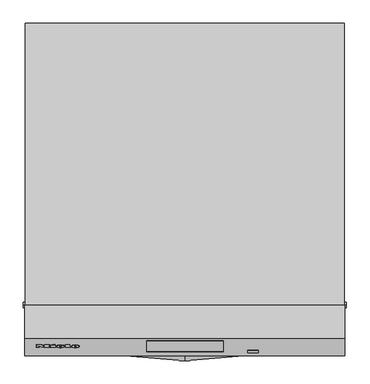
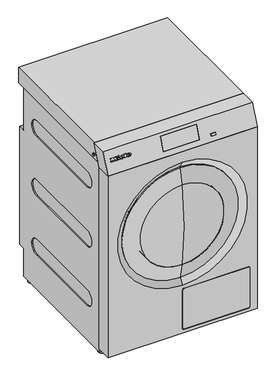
"""IFC4 building model written with IfcOpenShell, lengths in millimetres: proxy geometry, 11924420_EU_PDR910EL_IG : 52910002_EU_11924420_PDR910EL_IG."""

from ifc_helpers import new_model, si_unit, point, frame, frame_2d, origin, origin_with_axes, place, context, project, spatial, polyline, circle_curve, ellipse_curve, trimmed, segment, composite_curve, outline, extrude, faceted_brep, source, transform, mapped, element, save
from ifc_brep_helpers import plane_surface, cylinder_surface, revolved_surface, extruded_surface, advanced_brep


def specialty_equipment_8943c302(model_context):
    return source(origin(), model_context, "Body", "SolidModel", [
        advanced_brep(
        [(-238.2722, -700.6126019, 975.6957235), (-238.2722, -700.0401393, 977.1419447), (-227.9696, -700.0401393, 977.1419447), (-245.8952, -700.0401393, 977.1419447), (-241.6602, -701.9559051, 972.3021154), (-228.2314, -700.6126019, 975.6957235), (-232.8822, -700.6126019, 975.6957235), (-236.5474, -701.2474119, 974.0919931), (-238.2722, -699.3146422, 978.9747795), (-238.2722, -698.6968361, 980.5355529), (-235.6388, -698.6968361, 980.5355529), (-235.6388, -699.3146422, 978.9747795), (-238.2722, -699.6827953, 975.3276751), (-236.5474, -700.3176052, 973.7239446), (-232.8822, -699.6827953, 975.3276751), (-228.2314, -699.6827953, 975.3276751), (-241.6602, -701.0260985, 971.9340669), (-245.8952, -699.1103327, 976.7738963), (-227.9696, -699.1103327, 976.7738963), (-238.2722, -699.1103327, 976.7738963), (-238.2722, -698.3848356, 978.6067311), (-235.6388, -698.3848356, 978.6067311), (-235.6388, -697.7670295, 980.1675045), (-238.2722, -697.7670295, 980.1675045)],
        [
            (0, 1),
            (1, 2),
            (2, 3, ellipse_curve(frame((-236.9324, -700.0401393, 977.1419447), z_axis=(0.0, -0.9298066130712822, 0.36804845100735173), x_axis=(-1.0, 0.0, 0.0)), 8.9628, 7.4074)),
            (3, 4, circle_curve(frame((-239.935316, -699.8474292, 977.6287915), z_axis=(0.0, -0.9298066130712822, 0.36804845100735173), x_axis=(0.0, -0.36804845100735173, -0.9298066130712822)), 5.98284)),
            (4, 5, circle_curve(frame((-237.1118224, -698.3510914, 981.4090133), z_axis=(0.0, -0.9298066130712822, 0.36804845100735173), x_axis=(0.0, -0.36804845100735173, -0.9298066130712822)), 10.7989819)),
            (5, 6),
            (6, 7, circle_curve(frame((-235.7946118, -700.0854829, 977.0273926), z_axis=(0.0, 0.9298066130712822, -0.36804845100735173), x_axis=(0.0, -0.36804845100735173, -0.9298066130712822)), 3.2455106)),
            (7, 0, circle_curve(frame((-236.5474, -700.6126019, 975.6957235), z_axis=(0.0, 0.9298066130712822, -0.36804845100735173), x_axis=(0.0, -0.36804845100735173, -0.9298066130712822)), 1.7248)),
            (8, 9),
            (9, 10, circle_curve(frame((-236.9555, -698.6968361, 980.5355529), z_axis=(0.0, 0.9298066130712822, -0.36804845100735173), x_axis=(0.0, -0.36804845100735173, -0.9298066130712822)), 1.3167)),
            (10, 11),
            (11, 8),
            (12, 13, circle_curve(frame((-236.5474, -699.6827953, 975.3276751), z_axis=(0.0, -0.9298066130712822, 0.36804845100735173), x_axis=(0.0, -0.36804845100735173, -0.9298066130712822)), 1.7248)),
            (13, 14, circle_curve(frame((-235.7946118, -699.1556763, 976.6593441), z_axis=(0.0, -0.9298066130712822, 0.36804845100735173), x_axis=(0.0, -0.36804845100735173, -0.9298066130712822)), 3.2455106)),
            (14, 15),
            (15, 16, circle_curve(frame((-237.1118224, -697.4212848, 981.0409648), z_axis=(0.0, 0.9298066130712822, -0.36804845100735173), x_axis=(0.0, -0.36804845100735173, -0.9298066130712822)), 10.7989819)),
            (16, 17, circle_curve(frame((-239.935316, -698.9176225, 977.260743), z_axis=(0.0, 0.9298066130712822, -0.36804845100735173), x_axis=(0.0, -0.36804845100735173, -0.9298066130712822)), 5.98284)),
            (17, 18, ellipse_curve(frame((-236.9324, -699.1103327, 976.7738963), z_axis=(0.0, 0.9298066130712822, -0.36804845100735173), x_axis=(-1.0, 0.0, 0.0)), 8.9628, 7.4074)),
            (18, 19),
            (19, 12),
            (20, 21),
            (21, 22),
            (22, 23, circle_curve(frame((-236.9555, -697.7670295, 980.1675045), z_axis=(0.0, -0.9298066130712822, 0.36804845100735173), x_axis=(0.0, -0.36804845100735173, -0.9298066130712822)), 1.3167)),
            (23, 20),
            (0, 12),
            (19, 1),
            (18, 2),
            (5, 15),
            (14, 6),
            (17, 3),
            (13, 7),
            (16, 4),
            (8, 20),
            (23, 9),
            (22, 10),
            (21, 11),
        ],
        [
            plane_surface(frame((-238.2722, -700.0401393, 977.1419447), z_axis=(0.0, -0.9298066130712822, 0.36804845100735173), x_axis=(0.0, 0.36804845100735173, 0.9298066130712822))),
            plane_surface(frame((-238.2722, -699.1103327, 976.7738963), z_axis=(0.0, 0.9298066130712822, -0.36804845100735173), x_axis=(0.0, -0.36804845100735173, -0.9298066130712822))),
            plane_surface(frame((-238.2722, -700.6126019, 975.6957235), z_axis=(1.0, 0.0, 0.0), x_axis=(0.0, 0.9298066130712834, -0.3680484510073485))),
            plane_surface(frame((-238.2722, -700.0401393, 977.1419447), z_axis=(0.0, -0.3680484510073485, -0.9298066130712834), x_axis=(0.0, 0.9298066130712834, -0.3680484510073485))),
            plane_surface(frame((-228.2314, -700.6126019, 975.6957235), z_axis=(0.0, 0.3680484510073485, 0.9298066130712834), x_axis=(0.0, 0.9298066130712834, -0.3680484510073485))),
            extruded_surface(trimmed(ellipse_curve(frame((-236.9324, -698.1805261, 976.4058478), z_axis=(0.0, -0.9298066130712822, 0.36804845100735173), x_axis=(-1.0, 0.0, 0.0)), 8.9628, 7.4074), [point((-227.9696, -698.1805261, 976.4058478))], [point((-245.8952, -698.1805261, 976.4058478))], True, "CARTESIAN"), (0.0, -0.9298066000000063, 0.3680485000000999), 1.0000000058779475),
            revolved_surface(polyline([(-235.7946118, -700.3501813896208, 973.6416468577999), (-235.7946118, -701.2799880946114, 974.009695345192)]), (-235.7946118, -699.1556763, 976.6593441), (0.0, 0.9298066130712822, -0.36804845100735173)),
            revolved_surface(polyline([(-236.5474, -700.3176051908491, 973.723944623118), (-236.5474, -701.2474118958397, 974.0919931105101)]), (-236.5474, -699.6827953, 975.3276751), (0.0, 0.9298066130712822, -0.36804845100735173)),
            cylinder_surface(frame((-239.935316, -698.9176225, 977.260743), z_axis=(0.0, -0.9298066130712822, 0.36804845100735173), x_axis=(0.0, -0.36804845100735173, -0.9298066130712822)), 5.98284),
            cylinder_surface(frame((-237.1118224, -697.4212848, 981.0409648), z_axis=(0.0, -0.9298066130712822, 0.36804845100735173), x_axis=(0.0, -0.36804845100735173, -0.9298066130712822)), 10.7989819),
            plane_surface(frame((-238.2722, -699.3146422, 978.9747795), z_axis=(1.0, 0.0, 0.0), x_axis=(0.0, 0.9298066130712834, -0.3680484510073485))),
            revolved_surface(polyline([(-236.9555, -698.2516388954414, 978.943228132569), (-236.9555, -699.1814454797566, 979.3112765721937)]), (-236.9555, -697.7670295, 980.1675045), (0.0, 0.9298066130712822, -0.36804845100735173)),
            plane_surface(frame((-235.6388, -698.6968361, 980.5355529), z_axis=(-1.0, 0.0, 0.0), x_axis=(0.0, 0.9298066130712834, -0.3680484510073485))),
            plane_surface(frame((-235.6388, -699.3146422, 978.9747795), z_axis=(0.0, 0.3680484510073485, 0.9298066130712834), x_axis=(0.0, 0.9298066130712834, -0.3680484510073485))),
        ],
        [
            (0, [[1, 2, 3, 4, 5, 6, 7, 8], [9, 10, 11, 12]]),
            (1, [[13, 14, 15, 16, 17, 18, 19, 20], [21, 22, 23, 24]]),
            (2, [[-1, 25, -20, 26]]),
            (3, [[-2, -26, -19, 27]]),
            (4, [[-6, 28, -15, 29]]),
            (5, [[-3, -27, -18, 30]]),
            (6, [[-7, -29, -14, 31]]),
            (7, [[-8, -31, -13, -25]]),
            (8, [[-4, -30, -17, 32]]),
            (9, [[-5, -32, -16, -28]]),
            (10, [[-9, 33, -24, 34]]),
            (11, [[-10, -34, -23, 35]]),
            (12, [[-11, -35, -22, 36]]),
            (13, [[-12, -36, -21, -33]]),
        ],
    ),
        advanced_brep(
        [(-270.412, -700.6126019, 975.6957235), (-270.412, -700.0401393, 977.1419447), (-260.1094, -700.0401393, 977.1419447), (-278.035, -700.0401393, 977.1419447), (-273.8, -701.9559051, 972.3021154), (-260.3712, -700.6126019, 975.6957235), (-265.022, -700.6126019, 975.6957235), (-268.6872, -701.2474119, 974.0919931), (-270.412, -699.3146422, 978.9747795), (-270.412, -698.6968361, 980.5355529), (-267.7786, -698.6968361, 980.5355529), (-267.7786, -699.3146422, 978.9747795), (-270.412, -699.6827953, 975.3276751), (-268.6872, -700.3176052, 973.7239446), (-265.022, -699.6827953, 975.3276751), (-260.3712, -699.6827953, 975.3276751), (-273.8, -701.0260985, 971.9340669), (-278.035, -699.1103327, 976.7738963), (-260.1094, -699.1103327, 976.7738963), (-270.412, -699.1103327, 976.7738963), (-270.412, -698.3848356, 978.6067311), (-267.7786, -698.3848356, 978.6067311), (-267.7786, -697.7670295, 980.1675045), (-270.412, -697.7670295, 980.1675045)],
        [
            (0, 1),
            (1, 2),
            (2, 3, ellipse_curve(frame((-269.0722, -700.0401393, 977.1419447), z_axis=(0.0, -0.9298066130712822, 0.36804845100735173), x_axis=(-1.0, 0.0, 0.0)), 8.9628, 7.4074)),
            (3, 4, circle_curve(frame((-272.075116, -699.8474292, 977.6287915), z_axis=(0.0, -0.9298066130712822, 0.36804845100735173), x_axis=(0.0, -0.36804845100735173, -0.9298066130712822)), 5.98284)),
            (4, 5, circle_curve(frame((-269.2516224, -698.3510914, 981.4090133), z_axis=(0.0, -0.9298066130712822, 0.36804845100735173), x_axis=(0.0, -0.36804845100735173, -0.9298066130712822)), 10.7989819)),
            (5, 6),
            (6, 7, circle_curve(frame((-267.9344118, -700.0854829, 977.0273926), z_axis=(0.0, 0.9298066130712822, -0.36804845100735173), x_axis=(0.0, -0.36804845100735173, -0.9298066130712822)), 3.2455106)),
            (7, 0, circle_curve(frame((-268.6872, -700.6126019, 975.6957235), z_axis=(0.0, 0.9298066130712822, -0.36804845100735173), x_axis=(0.0, -0.36804845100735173, -0.9298066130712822)), 1.7248)),
            (8, 9),
            (9, 10, circle_curve(frame((-269.0953, -698.6968361, 980.5355529), z_axis=(0.0, 0.9298066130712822, -0.36804845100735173), x_axis=(0.0, -0.36804845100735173, -0.9298066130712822)), 1.3167)),
            (10, 11),
            (11, 8),
            (12, 13, circle_curve(frame((-268.6872, -699.6827953, 975.3276751), z_axis=(0.0, -0.9298066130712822, 0.36804845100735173), x_axis=(0.0, -0.36804845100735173, -0.9298066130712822)), 1.7248)),
            (13, 14, circle_curve(frame((-267.9344118, -699.1556763, 976.6593441), z_axis=(0.0, -0.9298066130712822, 0.36804845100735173), x_axis=(0.0, -0.36804845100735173, -0.9298066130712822)), 3.2455106)),
            (14, 15),
            (15, 16, circle_curve(frame((-269.2516224, -697.4212848, 981.0409648), z_axis=(0.0, 0.9298066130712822, -0.36804845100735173), x_axis=(0.0, -0.36804845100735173, -0.9298066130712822)), 10.7989819)),
            (16, 17, circle_curve(frame((-272.075116, -698.9176225, 977.260743), z_axis=(0.0, 0.9298066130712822, -0.36804845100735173), x_axis=(0.0, -0.36804845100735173, -0.9298066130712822)), 5.98284)),
            (17, 18, ellipse_curve(frame((-269.0722, -699.1103327, 976.7738963), z_axis=(0.0, 0.9298066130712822, -0.36804845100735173), x_axis=(-1.0, 0.0, 0.0)), 8.9628, 7.4074)),
            (18, 19),
            (19, 12),
            (20, 21),
            (21, 22),
            (22, 23, circle_curve(frame((-269.0953, -697.7670295, 980.1675045), z_axis=(0.0, -0.9298066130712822, 0.36804845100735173), x_axis=(0.0, -0.36804845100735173, -0.9298066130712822)), 1.3167)),
            (23, 20),
            (0, 12),
            (19, 1),
            (18, 2),
            (5, 15),
            (14, 6),
            (17, 3),
            (13, 7),
            (16, 4),
            (8, 20),
            (23, 9),
            (22, 10),
            (21, 11),
        ],
        [
            plane_surface(frame((-270.412, -700.0401393, 977.1419447), z_axis=(0.0, -0.9298066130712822, 0.36804845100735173), x_axis=(0.0, 0.36804845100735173, 0.9298066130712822))),
            plane_surface(frame((-270.412, -699.1103327, 976.7738963), z_axis=(0.0, 0.9298066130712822, -0.36804845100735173), x_axis=(0.0, -0.36804845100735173, -0.9298066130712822))),
            plane_surface(frame((-270.412, -700.6126019, 975.6957235), z_axis=(1.0, 0.0, 0.0), x_axis=(0.0, 0.9298066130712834, -0.3680484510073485))),
            plane_surface(frame((-270.412, -700.0401393, 977.1419447), z_axis=(0.0, -0.3680484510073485, -0.9298066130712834), x_axis=(0.0, 0.9298066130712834, -0.3680484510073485))),
            plane_surface(frame((-260.3712, -700.6126019, 975.6957235), z_axis=(0.0, 0.3680484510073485, 0.9298066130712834), x_axis=(0.0, 0.9298066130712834, -0.3680484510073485))),
            extruded_surface(trimmed(ellipse_curve(frame((-269.0722, -698.1805261, 976.4058478), z_axis=(0.0, -0.9298066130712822, 0.36804845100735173), x_axis=(-1.0, 0.0, 0.0)), 8.9628, 7.4074), [point((-260.1094, -698.1805261, 976.4058478))], [point((-278.035, -698.1805261, 976.4058478))], True, "CARTESIAN"), (0.0, -0.9298066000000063, 0.3680485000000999), 1.0000000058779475),
            revolved_surface(polyline([(-267.9344118, -700.3501813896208, 973.6416468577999), (-267.9344118, -701.2799880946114, 974.009695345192)]), (-267.9344118, -699.1556763, 976.6593441), (0.0, 0.9298066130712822, -0.36804845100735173)),
            revolved_surface(polyline([(-268.6872, -700.3176051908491, 973.723944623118), (-268.6872, -701.2474118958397, 974.0919931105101)]), (-268.6872, -699.6827953, 975.3276751), (0.0, 0.9298066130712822, -0.36804845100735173)),
            cylinder_surface(frame((-272.075116, -698.9176225, 977.260743), z_axis=(0.0, -0.9298066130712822, 0.36804845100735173), x_axis=(0.0, -0.36804845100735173, -0.9298066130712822)), 5.98284),
            cylinder_surface(frame((-269.2516224, -697.4212848, 981.0409648), z_axis=(0.0, -0.9298066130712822, 0.36804845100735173), x_axis=(0.0, -0.36804845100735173, -0.9298066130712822)), 10.7989819),
            plane_surface(frame((-270.412, -699.3146422, 978.9747795), z_axis=(1.0, 0.0, 0.0), x_axis=(0.0, 0.9298066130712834, -0.3680484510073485))),
            revolved_surface(polyline([(-269.0953, -698.2516388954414, 978.943228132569), (-269.0953, -699.1814454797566, 979.3112765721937)]), (-269.0953, -697.7670295, 980.1675045), (0.0, 0.9298066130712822, -0.36804845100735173)),
            plane_surface(frame((-267.7786, -698.6968361, 980.5355529), z_axis=(-1.0, 0.0, 0.0), x_axis=(0.0, 0.9298066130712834, -0.3680484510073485))),
            plane_surface(frame((-267.7786, -699.3146422, 978.9747795), z_axis=(0.0, 0.3680484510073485, 0.9298066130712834), x_axis=(0.0, 0.9298066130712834, -0.3680484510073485))),
        ],
        [
            (0, [[1, 2, 3, 4, 5, 6, 7, 8], [9, 10, 11, 12]]),
            (1, [[13, 14, 15, 16, 17, 18, 19, 20], [21, 22, 23, 24]]),
            (2, [[-1, 25, -20, 26]]),
            (3, [[-2, -26, -19, 27]]),
            (4, [[-6, 28, -15, 29]]),
            (5, [[-3, -27, -18, 30]]),
            (6, [[-7, -29, -14, 31]]),
            (7, [[-8, -31, -13, -25]]),
            (8, [[-4, -30, -17, 32]]),
            (9, [[-5, -32, -16, -28]]),
            (10, [[-9, 33, -24, 34]]),
            (11, [[-10, -34, -23, 35]]),
            (12, [[-11, -35, -22, 36]]),
            (13, [[-12, -36, -21, -33]]),
        ],
    ),
        extrude(outline(polyline([(0.0, 0.0), (-0.0209991, -5.7737091), (-2.7701549, -5.7597671), (-2.7556966, 0.0), (0.0, 0.0)])), frame((-287.2442, -695.6925612, 985.4082665), z_axis=(0.0, -0.9298066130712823, 0.3680484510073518), x_axis=(-0.4247202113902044, 0.33320333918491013, 0.8417768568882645)), (0.0, 0.0, 1.0), 1.0),
        extrude(outline(polyline([(-0.9497773, 4.6471612), (-5.3516625, -4.7358047), (-13.5635003, -0.8833376), (-14.3222205, -2.5006095), (-16.6644765, -1.4017734), (-11.5038711, 9.5984644), (-9.1616151, 8.4996283), (-9.9399574, 6.8405303), (-4.2237375, 4.1588469), (-3.4453952, 5.8179449), (-0.9497773, 4.6471612)])), frame((-287.2442, -695.6925612, 985.4082665), z_axis=(0.0, -0.9298066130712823, 0.3680484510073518), x_axis=(-0.4247202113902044, 0.33320333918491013, 0.8417768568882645)), (0.0, 0.0, 1.0), 1.0),
        extrude(outline(polyline([(0.0, 0.0), (0.0, -2.5102), (-10.5952, -2.5102), (-10.5952, 10.3026), (-12.4894, 10.3026), (-12.4894, 12.8898), (0.0, 12.8898), (0.0, 10.3026), (-1.848, 10.3026), (-1.848, 0.0), (0.0, 0.0)])), frame((-259.247, -696.2820276, 983.9190882), z_axis=(0.0, -0.9298066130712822, 0.36804845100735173), x_axis=(-1.0, 0.0, 0.0)), (0.0, 0.0, 1.0), 1.0),
        extrude(outline(polyline([(0.0, 0.0), (0.0, -2.5102), (-10.7338, -2.5102), (-15.246, 3.2648), (-19.7428, -2.5102), (-29.1214, -2.5102), (-29.1214, 0.0), (-27.1656, 0.0), (-27.1656, 10.3026), (-29.1214, 10.3026), (-29.1214, 12.8898), (-16.8322, 12.8898), (-16.8322, 10.3026), (-18.7264, 10.3026), (-18.7264, 3.7307777), (-11.8118, 12.8898), (-4.928, 3.7988752), (-4.928, 10.3026), (-6.776, 10.3026), (-6.776, 12.8898), (0.0, 12.8898), (0.0, 10.3026), (-1.8634, 10.3026), (-1.8634, 0.0), (0.0, 0.0)])), frame((-321.7402, -696.2820276, 983.9190882), z_axis=(0.0, -0.9298066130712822, 0.36804845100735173), x_axis=(-1.0, 0.0, 0.0)), (0.0, 0.0, 1.0), 1.0),
        extrude(outline(polyline([(-639.7145833, 946.7), (-711.0145833, 946.7), (-687.0666667, 1007.2), (-615.7666667, 1007.2), (-639.7145833, 946.7)])), frame((-82.85, 0.0, 0.0), z_axis=(1.0, 0.0, 0.0), x_axis=(0.0, 1.0, 0.0)), (0.0, 0.0, 1.0), 165.7),
        faceted_brep([(346.0, -610.7, 1020.0), (346.0, -682.0, 1020.0), (346.0, -720.0, 924.0), (346.0, -648.7, 924.0), (-346.0, -610.7, 1020.0), (-346.0, -648.7, 924.0), (-346.0, -720.0, 924.0), (-346.0, -682.0, 1020.0), (-82.85, -687.0666667, 1007.2), (82.85, -687.0666667, 1007.2), (82.85, -711.0145833, 946.7), (-82.85, -711.0145833, 946.7), (82.85, -615.7666667, 1007.2), (-82.85, -615.7666667, 1007.2), (-82.85, -639.7145833, 946.7), (82.85, -639.7145833, 946.7)], [[[0, 1, 2, 3]], [[4, 5, 6, 7]], [[1, 0, 4, 7]], [[2, 1, 7, 6], [8, 9, 10, 11]], [[3, 2, 6, 5]], [[0, 3, 5, 4], [12, 13, 14, 15]], [[12, 9, 8, 13]], [[13, 8, 11, 14]], [[14, 11, 10, 15]], [[9, 12, 15, 10]]]),
        extrude(outline(polyline([(-707.5708333, 955.4), (-711.1333333, 946.4), (-713.1333333, 946.4), (-709.5708333, 955.4), (-707.5708333, 955.4)])), frame((136.75, 0.0, 0.0), z_axis=(1.0, 0.0, 0.0), x_axis=(0.0, 1.0, 0.0)), (0.0, 0.0, 1.0), 22.5),
        extrude(outline(polyline([(0.0, 943.8), (-640.9, 943.8), (-610.7, 1020.0), (0.0, 1020.0), (0.0, 943.8)])), frame((-345.0, 0.0, 0.0), z_axis=(1.0, 0.0, 0.0), x_axis=(0.0, 1.0, 0.0)), (0.0, 0.0, 1.0), 690.0),
        extrude(outline(composite_curve([segment(trimmed(circle_curve(frame_2d((-610.0, 963.8)), 6.0), [point((-610.0, 957.8))], [point((-610.0, 969.8))], False, "CARTESIAN"), True, "CONTINUOUS"), segment(trimmed(circle_curve(frame_2d((-610.0, 963.8)), 6.0), [point((-610.0, 969.8))], [point((-610.0, 957.8))], False, "CARTESIAN"), True, "CONTINUOUS")], self_intersect=False)), frame((-350.0, 0.0, 0.0), z_axis=(1.0, 0.0, 0.0), x_axis=(0.0, 1.0, 0.0)), (0.0, 0.0, 1.0), 5.0),
        extrude(outline(composite_curve([segment(trimmed(circle_curve(frame_2d((-610.0, 963.8)), 6.0), [point((-610.0, 957.8))], [point((-610.0, 969.8))], False, "CARTESIAN"), True, "CONTINUOUS"), segment(trimmed(circle_curve(frame_2d((-610.0, 963.8)), 6.0), [point((-610.0, 969.8))], [point((-610.0, 957.8))], False, "CARTESIAN"), True, "CONTINUOUS")], self_intersect=False)), frame((345.0, 0.0, 0.0), z_axis=(1.0, 0.0, 0.0), x_axis=(0.0, 1.0, 0.0)), (0.0, 0.0, 1.0), 5.0),
        advanced_brep(
        [(-0.6181593, -731.0, 562.28215), (-0.6181593, -714.5357304, 758.08215), (-0.6181593, -714.5357304, 366.48215), (-0.6181593, -655.0, 366.48215), (-0.6181593, -655.0, 758.08215), (-0.6181593, -655.0, 562.28215)],
        [
            (0, 1, circle_curve(frame((-0.6181593, 441.5, 562.28215), z_axis=(-1.0, 0.0, 0.0), x_axis=(0.0, 1.0, 0.0)), 1172.5)),
            (1, 2, circle_curve(frame((-0.6181593, -714.5357304, 562.28215), z_axis=(0.0, -1.0, 0.0), x_axis=(0.0, 0.0, 1.0)), 195.8)),
            (2, 0, circle_curve(frame((-0.6181593, 441.5, 562.28215), z_axis=(-1.0, 0.0, 0.0), x_axis=(0.0, 1.0, 0.0)), 1172.5)),
            (2, 1, circle_curve(frame((-0.6181593, -714.5357304, 562.28215), z_axis=(0.0, -1.0, 0.0), x_axis=(0.0, 0.0, 1.0)), 195.8)),
            (3, 4, circle_curve(frame((-0.6181593, -655.0, 562.28215), z_axis=(0.0, 1.0, 0.0), x_axis=(0.0, 0.0, 1.0)), 195.8)),
            (4, 5),
            (5, 3),
            (4, 3, circle_curve(frame((-0.6181593, -655.0, 562.28215), z_axis=(0.0, 1.0, 0.0), x_axis=(0.0, 0.0, 1.0)), 195.8)),
            (1, 4),
            (3, 2),
        ],
        [
            revolved_surface(trimmed(ellipse_curve(frame((-0.6181593, 441.5, 562.28215), z_axis=(1.0, 0.0, 0.0), x_axis=(0.0, 1.0, 0.0)), 1172.5, 1172.5), [point((-0.6181593, -714.5357304, 758.08215))], [point((-0.6181593, -731.0, 562.28215))], True, "CARTESIAN"), (-0.6181593, -1133.7365177, 562.28215), (0.0, -1.0, 0.0)),
            plane_surface(frame((-0.6181593, -655.0, 562.28215), z_axis=(0.0, 1.0, 0.0), x_axis=(0.0, 0.0, 1.0))),
            cylinder_surface(frame((-0.6181593, -1133.7365177, 562.28215), z_axis=(0.0, -1.0, 0.0), x_axis=(0.0, 0.0, 1.0)), 195.8),
        ],
        [
            (0, [[1, 2, 3]]),
            (0, [[-3, 4, -1]]),
            (1, [[5, 6, 7]]),
            (1, [[8, -7, -6]]),
            (2, [[-2, 9, -5, 10]]),
            (2, [[-4, -10, -8, -9]]),
        ],
    ),
        advanced_brep(
        [(-0.6181593, -655.0, 327.28215), (-0.6181593, -655.0, 797.28215), (-0.6181593, -655.0, 758.08215), (-0.6181593, -655.0, 366.48215), (-0.6181593, -661.5, 315.18215), (-0.6181593, -661.5, 809.38215), (-0.6181593, -690.7, 292.28215), (-0.6181593, -690.7, 832.28215), (-0.6181593, -700.5, 292.28215), (-0.6181593, -700.5, 832.28215), (-0.6181593, -717.25, 366.48215), (-0.6181593, -717.25, 758.08215)],
        [
            (0, 1, circle_curve(frame((-0.6181593, -655.0, 562.28215), z_axis=(0.0, 1.0, 0.0), x_axis=(0.0, 0.0, 1.0)), 235.0)),
            (1, 2),
            (2, 3, circle_curve(frame((-0.6181593, -655.0, 562.28215), z_axis=(0.0, -1.0, 0.0), x_axis=(0.0, 0.0, 1.0)), 195.8)),
            (3, 0),
            (1, 0, circle_curve(frame((-0.6181593, -655.0, 562.28215), z_axis=(0.0, 1.0, 0.0), x_axis=(0.0, 0.0, 1.0)), 235.0)),
            (3, 2, circle_curve(frame((-0.6181593, -655.0, 562.28215), z_axis=(0.0, -1.0, 0.0), x_axis=(0.0, 0.0, 1.0)), 195.8)),
            (4, 5, circle_curve(frame((-0.6181593, -661.5, 562.28215), z_axis=(0.0, 1.0, 0.0), x_axis=(0.0, 0.0, 1.0)), 247.1)),
            (5, 1),
            (0, 4),
            (5, 4, circle_curve(frame((-0.6181593, -661.5, 562.28215), z_axis=(0.0, 1.0, 0.0), x_axis=(0.0, 0.0, 1.0)), 247.1)),
            (6, 7, circle_curve(frame((-0.6181593, -690.7, 562.28215), z_axis=(0.0, 1.0, 0.0), x_axis=(0.0, 0.0, 1.0)), 270.0)),
            (7, 5),
            (4, 6),
            (7, 6, circle_curve(frame((-0.6181593, -690.7, 562.28215), z_axis=(0.0, 1.0, 0.0), x_axis=(0.0, 0.0, 1.0)), 270.0)),
            (8, 9, circle_curve(frame((-0.6181593, -700.5, 562.28215), z_axis=(0.0, 1.0, 0.0), x_axis=(0.0, 0.0, 1.0)), 270.0)),
            (9, 7),
            (6, 8),
            (9, 8, circle_curve(frame((-0.6181593, -700.5, 562.28215), z_axis=(0.0, 1.0, 0.0), x_axis=(0.0, 0.0, 1.0)), 270.0)),
            (10, 11, circle_curve(frame((-0.6181593, -717.25, 562.28215), z_axis=(0.0, 1.0, 0.0), x_axis=(0.0, 0.0, 1.0)), 195.8)),
            (11, 9),
            (8, 10),
            (11, 10, circle_curve(frame((-0.6181593, -717.25, 562.28215), z_axis=(0.0, 1.0, 0.0), x_axis=(0.0, 0.0, 1.0)), 195.8)),
            (2, 11),
            (10, 3),
        ],
        [
            plane_surface(frame((-0.6181593, -655.0, 562.28215), z_axis=(0.0, 1.0, 0.0), x_axis=(0.0, 0.0, 1.0))),
            revolved_surface(polyline([(-0.6181593, -655.0, 797.28215), (-0.6181593, -661.5, 809.38215)]), (-0.6181593, -1133.7365177, 562.28215), (0.0, -1.0, 0.0)),
            revolved_surface(polyline([(-0.6181593, -661.5, 809.38215), (-0.6181593, -690.7, 832.28215)]), (-0.6181593, -1133.7365177, 562.28215), (0.0, -1.0, 0.0)),
            cylinder_surface(frame((-0.6181593, -1133.7365177, 562.28215), z_axis=(0.0, -1.0, 0.0), x_axis=(0.0, 0.0, 1.0)), 270.0),
            revolved_surface(polyline([(-0.6181593, -700.5, 832.28215), (-0.6181593, -717.25, 758.08215)]), (-0.6181593, -1133.7365177, 562.28215), (0.0, -1.0, 0.0)),
            revolved_surface(polyline([(-0.6181593, -717.25, 758.08215), (-0.6181593, -655.0, 758.08215)]), (-0.6181593, -1133.7365177, 562.28215), (0.0, -1.0, 0.0)),
        ],
        [
            (0, [[1, 2, 3, 4]]),
            (0, [[5, -4, 6, -2]]),
            (1, [[7, 8, -1, 9]]),
            (1, [[10, -9, -5, -8]]),
            (2, [[11, 12, -7, 13]]),
            (2, [[14, -13, -10, -12]]),
            (3, [[15, 16, -11, 17]]),
            (3, [[18, -17, -14, -16]]),
            (4, [[19, 20, -15, 21]]),
            (4, [[22, -21, -18, -20]]),
            (5, [[-3, 23, -19, 24]]),
            (5, [[-6, -24, -22, -23]]),
        ],
    ),
        extrude(outline(polyline([(240.6772603, -32.7), (233.3, -32.7), (233.3, -31.4442961), (239.4215564, -31.4442961), (239.4215564, -28.1480734), (233.770889, -28.1480734), (233.770889, -26.8923696), (239.4215564, -26.8923696), (239.4215564, -23.9100729), (233.456963, -23.9100729), (233.456963, -22.654369), (240.6772603, -22.654369), (240.6772603, -32.7)])), frame((0.0, 0.0, 779.0), z_axis=(0.0, 0.0, 1.0), x_axis=(1.0, 0.0, 0.0)), (0.0, 0.0, 1.0), 1.0),
        extrude(outline(polyline([(231.4164442, -32.7), (225.1379248, -32.7), (225.1379248, -31.4442961), (230.1607403, -31.4442961), (230.1607403, -22.654369), (231.4164442, -22.654369), (231.4164442, -32.7)])), frame((0.0, 0.0, 779.0), z_axis=(0.0, 0.0, 1.0), x_axis=(1.0, 0.0, 0.0)), (0.0, 0.0, 1.0), 1.0),
        extrude(outline(composite_curve([segment(trimmed(circle_curve(frame_2d((233.3, -27.7)), 7.5), [point((225.8, -27.7))], [point((240.8, -27.7))], False, "CARTESIAN"), True, "CONTINUOUS"), segment(trimmed(circle_curve(frame_2d((233.3, -27.7)), 7.5), [point((240.8, -27.7))], [point((225.8, -27.7))], False, "CARTESIAN"), True, "CONTINUOUS")], self_intersect=False)), frame((0.0, 0.0, 780.0), z_axis=(0.0, 0.0, 1.0), x_axis=(1.0, 0.0, 0.0)), (0.0, 0.0, 1.0), 30.0),
        extrude(outline(polyline([(-36.0, 810.0), (-36.0, 890.8), (-11.2, 863.0), (-11.2, 810.0), (-36.0, 810.0)])), frame((197.0, 0.0, 0.0), z_axis=(1.0, 0.0, 0.0), x_axis=(0.0, 1.0, 0.0)), (0.0, 0.0, 1.0), 76.0),
        extrude(outline(polyline([(85.0, -189.952875), (95.045631, -193.9627887), (95.045631, -195.0320991), (85.0, -199.0420128), (85.0, -197.7151851), (88.1392597, -196.5649407), (88.1392597, -192.4274945), (85.0, -191.2797027), (85.0, -189.952875)]), holes=[polyline([(89.3949636, -192.8885733), (89.3949636, -196.1063145), (91.864678, -195.2013248), (93.7899271, -194.4974439), (92.0805021, -193.8720445), (89.3949636, -192.8885733)])]), frame((0.0, -6.0, 0.0), z_axis=(0.0, 1.0, 0.0), x_axis=(0.0, 0.0, 1.0)), (0.0, 0.0, 1.0), 1.0),
        extrude(outline(polyline([(85.0, -200.3835558), (95.045631, -200.3835558), (95.045631, -201.6392597), (86.2557039, -201.6392597), (86.2557039, -206.6620752), (85.0, -206.6620752), (85.0, -200.3835558)])), frame((0.0, -6.0, 0.0), z_axis=(0.0, 1.0, 0.0), x_axis=(0.0, 0.0, 1.0)), (0.0, 0.0, 1.0), 1.0),
        extrude(outline(composite_curve([segment(trimmed(circle_curve(frame_2d((90.0, -198.5)), 57.5), [point((32.5, -198.5))], [point((147.5, -198.5))], False, "CARTESIAN"), True, "CONTINUOUS"), segment(trimmed(circle_curve(frame_2d((90.0, -198.5)), 57.5), [point((147.5, -198.5))], [point((32.5, -198.5))], False, "CARTESIAN"), True, "CONTINUOUS")], self_intersect=False)), frame((0.0, -36.0, 0.0), z_axis=(0.0, 1.0, 0.0), x_axis=(0.0, 0.0, 1.0)), (0.0, 0.0, 1.0), 30.0),
        extrude(outline(composite_curve([segment(trimmed(circle_curve(frame_2d((-314.5, -60.1)), 20.0), [point((-334.5, -60.1))], [point((-294.5, -60.1))], False, "CARTESIAN"), True, "CONTINUOUS"), segment(trimmed(circle_curve(frame_2d((-314.5, -60.1)), 20.0), [point((-294.5, -60.1))], [point((-334.5, -60.1))], False, "CARTESIAN"), True, "CONTINUOUS")], self_intersect=False)), origin_with_axes(), (0.0, 0.0, 1.0), 18.2),
        extrude(outline(composite_curve([segment(trimmed(circle_curve(frame_2d((314.5, -60.1)), 20.0), [point((294.5, -60.1))], [point((334.5, -60.1))], False, "CARTESIAN"), True, "CONTINUOUS"), segment(trimmed(circle_curve(frame_2d((314.5, -60.1)), 20.0), [point((334.5, -60.1))], [point((294.5, -60.1))], False, "CARTESIAN"), True, "CONTINUOUS")], self_intersect=False)), origin_with_axes(), (0.0, 0.0, 1.0), 18.2),
        extrude(outline(composite_curve([segment(trimmed(circle_curve(frame_2d((314.5, -621.3)), 20.0), [point((294.5, -621.3))], [point((334.5, -621.3))], False, "CARTESIAN"), True, "CONTINUOUS"), segment(trimmed(circle_curve(frame_2d((314.5, -621.3)), 20.0), [point((334.5, -621.3))], [point((294.5, -621.3))], False, "CARTESIAN"), True, "CONTINUOUS")], self_intersect=False)), origin_with_axes(), (0.0, 0.0, 1.0), 18.2),
        extrude(outline(composite_curve([segment(trimmed(circle_curve(frame_2d((-314.5, -621.3)), 20.0), [point((-334.5, -621.3))], [point((-294.5, -621.3))], False, "CARTESIAN"), True, "CONTINUOUS"), segment(trimmed(circle_curve(frame_2d((-314.5, -621.3)), 20.0), [point((-294.5, -621.3))], [point((-334.5, -621.3))], False, "CARTESIAN"), True, "CONTINUOUS")], self_intersect=False)), origin_with_axes(), (0.0, 0.0, 1.0), 18.2),
        advanced_brep(
        [(-342.5, -648.7, 18.2), (342.5, -648.7, 18.2), (342.5, -648.7, 924.0), (-342.5, -648.7, 924.0), (0.0, -648.7, 299.8), (0.0, -648.7, 839.8), (342.5, -5.0, 733.5), (342.5, -5.0, 433.0), (149.5, -5.0, 433.0), (-80.0, -5.0, 155.0), (-342.5, -5.0, 155.0), (-342.5, -5.0, 733.5), (-151.0, -5.0, 733.5), (-151.0, -5.0, 943.8), (149.5, -5.0, 943.8), (149.5, -5.0, 733.5), (-342.5, -640.9, 943.8), (342.5, -640.9, 943.8), (342.5, -36.0, 943.8), (149.5, -36.0, 943.8), (-151.0, -36.0, 943.8), (-342.5, -36.0, 943.8), (-342.5, -36.0, 733.5), (-342.5, -36.0, 155.0), (-342.5, -36.0, 18.2), (-342.5, -141.0, 841.5708469), (-342.5, -546.0, 841.5708469), (-342.5, -546.0, 765.5708469), (-342.5, -141.0, 765.5708469), (-342.5, -141.0, 551.8), (-342.5, -546.0, 551.8), (-342.5, -546.0, 475.8), (-342.5, -141.0, 475.8), (-342.5, -141.0, 261.8), (-342.5, -546.0, 261.8), (-342.5, -546.0, 185.8), (-342.5, -141.0, 185.8), (342.5, -36.0, 18.2), (342.5, -36.0, 433.0), (342.5, -36.0, 733.5), (342.5, -548.1, 841.5708469), (342.5, -141.0, 841.5708469), (342.5, -141.0, 765.5708469), (342.5, -548.1, 765.5708469), (342.5, -548.1, 551.8), (342.5, -141.0, 551.8), (342.5, -141.0, 475.8), (342.5, -548.1, 475.8), (342.5, -548.1, 261.8), (342.5, -141.0, 261.8), (342.5, -141.0, 185.8), (342.5, -548.1, 185.8), (0.0, -74.7, 245.4), (0.0, -74.7, 569.8), (0.0, -74.7, 894.2), (0.0, -583.4, 894.2), (0.0, -583.4, 245.4), (0.0, -583.4, 839.8), (0.0, -583.4, 299.8), (-151.0, -36.0, 733.5), (149.5, -36.0, 733.5), (-80.0, -36.0, 155.0), (149.5, -36.0, 433.0), (-337.3, -141.0, 841.5708469), (-337.3, -546.0, 841.5708469), (-337.3, -141.0, 551.8), (-337.3, -546.0, 551.8), (337.3, -548.1, 551.8), (337.3, -141.0, 551.8), (337.3, -548.1, 261.8), (337.3, -141.0, 261.8), (-337.3, -141.0, 765.5708469), (-337.3, -546.0, 765.5708469), (-337.3, -141.0, 475.8), (-337.3, -546.0, 475.8), (-337.3, -546.0, 261.8), (-337.3, -141.0, 261.8), (-337.3, -141.0, 185.8), (-337.3, -546.0, 185.8), (337.3, -548.1, 841.5708469), (337.3, -548.1, 765.5708469), (337.3, -141.0, 765.5708469), (337.3, -141.0, 841.5708469), (337.3, -548.1, 475.8), (337.3, -141.0, 475.8), (337.3, -548.1, 185.8), (337.3, -141.0, 185.8)],
        [
            (0, 1),
            (1, 2),
            (2, 3),
            (3, 0),
            (4, 5, circle_curve(frame((0.0, -648.7, 569.8), z_axis=(0.0, 1.0, 0.0), x_axis=(0.0, 0.0, 1.0)), 270.0)),
            (5, 4, circle_curve(frame((0.0, -648.7, 569.8), z_axis=(0.0, 1.0, 0.0), x_axis=(0.0, 0.0, 1.0)), 270.0)),
            (6, 7),
            (7, 8),
            (8, 9),
            (9, 10),
            (10, 11),
            (11, 12),
            (12, 13),
            (13, 14),
            (14, 15),
            (15, 6),
            (16, 17),
            (17, 18),
            (18, 19),
            (19, 14),
            (13, 20),
            (20, 21),
            (21, 16),
            (3, 16),
            (21, 22),
            (22, 11),
            (10, 23),
            (23, 24),
            (24, 0),
            (25, 26),
            (26, 27, circle_curve(frame((-342.5, -546.0, 803.5708469), z_axis=(1.0, 0.0, 0.0), x_axis=(0.0, 0.0, -1.0)), 38.0)),
            (27, 28),
            (28, 25, circle_curve(frame((-342.5, -141.0, 803.5708469), z_axis=(1.0, 0.0, 0.0), x_axis=(0.0, 0.0, -1.0)), 38.0)),
            (29, 30),
            (30, 31, circle_curve(frame((-342.5, -546.0, 513.8), z_axis=(1.0, 0.0, 0.0), x_axis=(0.0, 0.0, -1.0)), 38.0)),
            (31, 32),
            (32, 29, circle_curve(frame((-342.5, -141.0, 513.8), z_axis=(1.0, 0.0, 0.0), x_axis=(0.0, 0.0, -1.0)), 38.0)),
            (33, 34),
            (34, 35, circle_curve(frame((-342.5, -546.0, 223.8), z_axis=(1.0, 0.0, 0.0), x_axis=(0.0, 0.0, -1.0)), 38.0)),
            (35, 36),
            (36, 33, circle_curve(frame((-342.5, -141.0, 223.8), z_axis=(1.0, 0.0, 0.0), x_axis=(0.0, 0.0, -1.0)), 38.0)),
            (24, 37),
            (37, 1),
            (37, 38),
            (38, 7),
            (6, 39),
            (39, 18),
            (17, 2),
            (40, 41),
            (41, 42, circle_curve(frame((342.5, -141.0, 803.5708469), z_axis=(-1.0, 0.0, 0.0), x_axis=(0.0, 0.0, -1.0)), 38.0)),
            (42, 43),
            (43, 40, circle_curve(frame((342.5, -548.1, 803.5708469), z_axis=(-1.0, 0.0, 0.0), x_axis=(0.0, 0.0, -1.0)), 38.0)),
            (44, 45),
            (45, 46, circle_curve(frame((342.5, -141.0, 513.8), z_axis=(-1.0, 0.0, 0.0), x_axis=(0.0, 0.0, -1.0)), 38.0)),
            (46, 47),
            (47, 44, circle_curve(frame((342.5, -548.1, 513.8), z_axis=(-1.0, 0.0, 0.0), x_axis=(0.0, 0.0, -1.0)), 38.0)),
            (48, 49),
            (49, 50, circle_curve(frame((342.5, -141.0, 223.8), z_axis=(-1.0, 0.0, 0.0), x_axis=(0.0, 0.0, -1.0)), 38.0)),
            (50, 51),
            (51, 48, circle_curve(frame((342.5, -548.1, 223.8), z_axis=(-1.0, 0.0, 0.0), x_axis=(0.0, 0.0, -1.0)), 38.0)),
            (52, 53),
            (53, 54),
            (54, 52, circle_curve(frame((0.0, -74.7, 569.8), z_axis=(0.0, -1.0, 0.0), x_axis=(0.0, 0.0, 1.0)), 324.4)),
            (52, 54, circle_curve(frame((0.0, -74.7, 569.8), z_axis=(0.0, -1.0, 0.0), x_axis=(0.0, 0.0, 1.0)), 324.4)),
            (54, 55),
            (55, 56, circle_curve(frame((0.0, -583.4, 569.8), z_axis=(0.0, -1.0, 0.0), x_axis=(0.0, 0.0, 1.0)), 324.4)),
            (56, 52),
            (56, 55, circle_curve(frame((0.0, -583.4, 569.8), z_axis=(0.0, -1.0, 0.0), x_axis=(0.0, 0.0, 1.0)), 324.4)),
            (55, 57),
            (57, 58, circle_curve(frame((0.0, -583.4, 569.8), z_axis=(0.0, -1.0, 0.0), x_axis=(0.0, 0.0, 1.0)), 270.0)),
            (58, 56),
            (58, 57, circle_curve(frame((0.0, -583.4, 569.8), z_axis=(0.0, -1.0, 0.0), x_axis=(0.0, 0.0, 1.0)), 270.0)),
            (57, 5),
            (4, 58),
            (59, 22),
            (20, 59),
            (39, 60),
            (60, 19),
            (23, 61),
            (61, 62),
            (62, 38),
            (59, 12),
            (60, 15),
            (62, 8),
            (61, 9),
            (63, 64),
            (64, 26),
            (25, 63),
            (65, 66),
            (66, 30),
            (29, 65),
            (67, 68),
            (68, 45),
            (44, 67),
            (69, 70),
            (70, 49),
            (48, 69),
            (63, 71, circle_curve(frame((-337.3, -141.0, 803.5708469), z_axis=(-1.0, 0.0, 0.0), x_axis=(0.0, 0.0, -1.0)), 38.0)),
            (71, 72),
            (72, 64, circle_curve(frame((-337.3, -546.0, 803.5708469), z_axis=(-1.0, 0.0, 0.0), x_axis=(0.0, 0.0, -1.0)), 38.0)),
            (65, 73, circle_curve(frame((-337.3, -141.0, 513.8), z_axis=(-1.0, 0.0, 0.0), x_axis=(0.0, 0.0, -1.0)), 38.0)),
            (73, 74),
            (74, 66, circle_curve(frame((-337.3, -546.0, 513.8), z_axis=(-1.0, 0.0, 0.0), x_axis=(0.0, 0.0, -1.0)), 38.0)),
            (75, 76),
            (76, 77, circle_curve(frame((-337.3, -141.0, 223.8), z_axis=(-1.0, 0.0, 0.0), x_axis=(0.0, 0.0, -1.0)), 38.0)),
            (77, 78),
            (78, 75, circle_curve(frame((-337.3, -546.0, 223.8), z_axis=(-1.0, 0.0, 0.0), x_axis=(0.0, 0.0, -1.0)), 38.0)),
            (28, 71),
            (27, 72),
            (32, 73),
            (31, 74),
            (75, 34),
            (33, 76),
            (36, 77),
            (35, 78),
            (79, 80, circle_curve(frame((337.3, -548.1, 803.5708469), z_axis=(1.0, 0.0, 0.0), x_axis=(0.0, 0.0, -1.0)), 38.0)),
            (80, 81),
            (81, 82, circle_curve(frame((337.3, -141.0, 803.5708469), z_axis=(1.0, 0.0, 0.0), x_axis=(0.0, 0.0, -1.0)), 38.0)),
            (82, 79),
            (67, 83, circle_curve(frame((337.3, -548.1, 513.8), z_axis=(1.0, 0.0, 0.0), x_axis=(0.0, 0.0, -1.0)), 38.0)),
            (83, 84),
            (84, 68, circle_curve(frame((337.3, -141.0, 513.8), z_axis=(1.0, 0.0, 0.0), x_axis=(0.0, 0.0, -1.0)), 38.0)),
            (69, 85, circle_curve(frame((337.3, -548.1, 223.8), z_axis=(1.0, 0.0, 0.0), x_axis=(0.0, 0.0, -1.0)), 38.0)),
            (85, 86),
            (86, 70, circle_curve(frame((337.3, -141.0, 223.8), z_axis=(1.0, 0.0, 0.0), x_axis=(0.0, 0.0, -1.0)), 38.0)),
            (82, 41),
            (40, 79),
            (81, 42),
            (80, 43),
            (84, 46),
            (83, 47),
            (86, 50),
            (85, 51),
        ],
        [
            plane_surface(frame((-342.5, -648.7, 943.8), z_axis=(0.0, -1.0, 0.0), x_axis=(-1.0, 0.0, 0.0))),
            plane_surface(frame((-342.5, -5.0, 943.8), z_axis=(0.0, 1.0, 0.0), x_axis=(1.0, 0.0, 0.0))),
            plane_surface(frame((342.5, -648.7, 943.8), z_axis=(0.0, 0.0, 1.0), x_axis=(0.0, 1.0, 0.0))),
            plane_surface(frame((-342.5, -648.7, 943.8), z_axis=(-1.0, 0.0, 0.0), x_axis=(0.0, 1.0, 0.0))),
            plane_surface(frame((-342.5, -648.7, 18.2), z_axis=(0.0, 0.0, -1.0), x_axis=(0.0, 1.0, 0.0))),
            plane_surface(frame((342.5, -648.7, 18.2), z_axis=(1.0, 0.0, 0.0), x_axis=(0.0, 1.0, 0.0))),
            plane_surface(frame((0.0, -74.7, 569.8), z_axis=(0.0, -1.0, 0.0), x_axis=(0.0, 0.0, 1.0))),
            revolved_surface(polyline([(0.0, -583.4, 894.1999999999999), (0.0, -74.70000000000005, 894.1999999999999)]), (0.0, -777.4462454, 569.8), (0.0, -1.0, 0.0)),
            plane_surface(frame((0.0, -583.4, 569.8), z_axis=(0.0, 1.0, 0.0), x_axis=(0.0, 0.0, 1.0))),
            revolved_surface(polyline([(0.0, -648.7, 839.8), (0.0, -583.4, 839.8)]), (0.0, -777.4462454, 569.8), (0.0, -1.0, 0.0)),
            plane_surface(frame((-342.5, -640.9, 943.8), z_axis=(0.0, -0.9304083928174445, 0.36652451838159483), x_axis=(1.0, 0.0, 0.0))),
            plane_surface(frame((-151.0, -36.0, 733.5), z_axis=(0.0, 1.0, 0.0), x_axis=(1.0, 0.0, 0.0))),
            plane_surface(frame((-342.5, -36.0, 733.5), z_axis=(0.0, 0.0, 1.0), x_axis=(0.0, 1.0, 0.0))),
            plane_surface(frame((-151.0, -36.0, 733.5), z_axis=(-1.0, 0.0, 0.0), x_axis=(0.0, 1.0, 0.0))),
            plane_surface(frame((149.5, -36.0, 1020.0), z_axis=(1.0, 0.0, 0.0), x_axis=(0.0, 1.0, 0.0))),
            plane_surface(frame((149.5, -36.0, 733.5), z_axis=(0.0, 0.0, 1.0), x_axis=(0.0, 1.0, 0.0))),
            plane_surface(frame((342.5, -36.0, 433.0), z_axis=(0.0, 0.0, -1.0), x_axis=(0.0, 1.0, 0.0))),
            plane_surface(frame((149.5, -36.0, 433.0), z_axis=(0.7711689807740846, 0.0, -0.636630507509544), x_axis=(0.0, 1.0, 0.0))),
            plane_surface(frame((-80.0, -36.0, 155.0), z_axis=(0.0, 0.0, -1.0), x_axis=(0.0, 1.0, 0.0))),
            plane_surface(frame((-337.3, -141.0, 841.5708469), z_axis=(0.0, 0.0, -1.0), x_axis=(-1.0, 0.0, 0.0))),
            plane_surface(frame((-337.3, -141.0, 551.8), z_axis=(0.0, 0.0, -1.0), x_axis=(-1.0, 0.0, 0.0))),
            plane_surface(frame((337.3, -548.1, 551.8), z_axis=(0.0, 0.0, -1.0), x_axis=(1.0, 0.0, 0.0))),
            plane_surface(frame((337.3, -548.1, 261.8), z_axis=(0.0, 0.0, -1.0), x_axis=(1.0, 0.0, 0.0))),
            plane_surface(frame((-337.3, -546.0, 765.5708469), z_axis=(-1.0, 0.0, 0.0), x_axis=(0.0, 1.0, 0.0))),
            revolved_surface(polyline([(-337.3, -141.0, 765.5708469), (-342.5, -141.0, 765.5708469)]), (-809.0117344, -141.0, 803.5708469), (1.0, 0.0, 0.0)),
            plane_surface(frame((-337.3, -546.0, 765.5708469), z_axis=(0.0, 0.0, 1.0), x_axis=(-1.0, 0.0, 0.0))),
            revolved_surface(polyline([(-337.29999999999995, -141.0, 475.79999999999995), (-342.5, -141.0, 475.79999999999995)]), (-1042.3, -141.0, 513.8), (1.0, 0.0, 0.0)),
            plane_surface(frame((-337.3, -546.0, 475.8), z_axis=(0.0, 0.0, 1.0), x_axis=(-1.0, 0.0, 0.0))),
            plane_surface(frame((-337.3, -141.0, 261.8), z_axis=(0.0, 0.0, -1.0), x_axis=(-1.0, 0.0, 0.0))),
            revolved_surface(polyline([(-337.29999999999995, -141.0, 185.8), (-342.5, -141.0, 185.8)]), (-1042.3, -141.0, 223.8), (1.0, 0.0, 0.0)),
            plane_surface(frame((-337.3, -546.0, 185.8), z_axis=(0.0, 0.0, 1.0), x_axis=(-1.0, 0.0, 0.0))),
            revolved_surface(polyline([(-337.3, -546.0, 765.5708469), (-342.5, -546.0, 765.5708469)]), (-809.0117344, -546.0, 803.5708469), (1.0, 0.0, 0.0)),
            revolved_surface(polyline([(-337.29999999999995, -546.0, 475.79999999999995), (-342.5, -546.0, 475.79999999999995)]), (-1042.3, -546.0, 513.8), (1.0, 0.0, 0.0)),
            revolved_surface(polyline([(-337.29999999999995, -546.0, 185.8), (-342.5, -546.0, 185.8)]), (-1042.3, -546.0, 223.8), (1.0, 0.0, 0.0)),
            plane_surface(frame((337.3, -141.0, 841.5708469), z_axis=(1.0, 0.0, 0.0), x_axis=(0.0, 1.0, 0.0))),
            plane_surface(frame((337.3, -548.1, 841.5708469), z_axis=(0.0, 0.0, -1.0), x_axis=(1.0, 0.0, 0.0))),
            revolved_surface(polyline([(337.3, -141.0, 765.5708469), (342.5, -141.0, 765.5708469)]), (809.0117344, -141.0, 803.5708469), (-1.0, 0.0, 0.0)),
            plane_surface(frame((337.3, -141.0, 765.5708469), z_axis=(0.0, 0.0, 1.0), x_axis=(1.0, 0.0, 0.0))),
            revolved_surface(polyline([(337.3, -548.1, 765.5708469), (342.5, -548.1, 765.5708469)]), (809.0117344, -548.1, 803.5708469), (-1.0, 0.0, 0.0)),
            revolved_surface(polyline([(337.29999999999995, -141.0, 475.79999999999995), (342.5, -141.0, 475.79999999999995)]), (1042.3, -141.0, 513.8), (-1.0, 0.0, 0.0)),
            plane_surface(frame((337.3, -141.0, 475.8), z_axis=(0.0, 0.0, 1.0), x_axis=(1.0, 0.0, 0.0))),
            revolved_surface(polyline([(337.29999999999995, -548.1, 475.79999999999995), (342.5, -548.1, 475.79999999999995)]), (1042.3, -548.1, 513.8), (-1.0, 0.0, 0.0)),
            revolved_surface(polyline([(337.29999999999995, -141.0, 185.8), (342.5, -141.0, 185.8)]), (1042.3, -141.0, 223.8), (-1.0, 0.0, 0.0)),
            plane_surface(frame((337.3, -141.0, 185.8), z_axis=(0.0, 0.0, 1.0), x_axis=(1.0, 0.0, 0.0))),
            revolved_surface(polyline([(337.29999999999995, -548.1, 185.8), (342.5, -548.1, 185.8)]), (1042.3, -548.1, 223.8), (-1.0, 0.0, 0.0)),
        ],
        [
            (0, [[1, 2, 3, 4], [5, 6]]),
            (1, [[7, 8, 9, 10, 11, 12, 13, 14, 15, 16]]),
            (2, [[17, 18, 19, 20, -14, 21, 22, 23]]),
            (3, [[-4, 24, -23, 25, 26, -11, 27, 28, 29], [30, 31, 32, 33], [34, 35, 36, 37], [38, 39, 40, 41]]),
            (4, [[-1, -29, 42, 43]]),
            (5, [[-2, -43, 44, 45, -7, 46, 47, -18, 48], [49, 50, 51, 52], [53, 54, 55, 56], [57, 58, 59, 60]]),
            (6, [[61, 62, 63]]),
            (6, [[-61, 64, -62]]),
            (7, [[-63, 65, 66, 67]]),
            (7, [[-64, -67, 68, -65]]),
            (8, [[-66, 69, 70, 71]]),
            (8, [[-68, -71, 72, -69]]),
            (9, [[-70, 73, -5, 74]]),
            (9, [[-72, -74, -6, -73]]),
            (10, [[-3, -48, -17, -24]]),
            (11, [[75, -25, -22, 76]]),
            (11, [[77, 78, -19, -47]]),
            (11, [[79, 80, 81, -44, -42, -28]]),
            (12, [[-75, 82, -12, -26]]),
            (13, [[-76, -21, -13, -82]]),
            (14, [[-78, 83, -15, -20]]),
            (15, [[-77, -46, -16, -83]]),
            (16, [[-81, 84, -8, -45]]),
            (17, [[-80, 85, -9, -84]]),
            (18, [[-79, -27, -10, -85]]),
            (19, [[86, 87, -30, 88]]),
            (20, [[89, 90, -34, 91]]),
            (21, [[92, 93, -53, 94]]),
            (22, [[95, 96, -57, 97]]),
            (23, [[-86, 98, 99, 100]]),
            (23, [[-89, 101, 102, 103]]),
            (23, [[104, 105, 106, 107]]),
            (24, [[-98, -88, -33, 108]]),
            (25, [[-99, -108, -32, 109]]),
            (26, [[-101, -91, -37, 110]]),
            (27, [[-102, -110, -36, 111]]),
            (28, [[-104, 112, -38, 113]]),
            (29, [[-105, -113, -41, 114]]),
            (30, [[-106, -114, -40, 115]]),
            (31, [[-100, -109, -31, -87]]),
            (32, [[-103, -111, -35, -90]]),
            (33, [[-107, -115, -39, -112]]),
            (34, [[116, 117, 118, 119]]),
            (34, [[120, 121, 122, -92]]),
            (34, [[123, 124, 125, -95]]),
            (35, [[-119, 126, -49, 127]]),
            (36, [[-118, 128, -50, -126]]),
            (37, [[-117, 129, -51, -128]]),
            (38, [[-116, -127, -52, -129]]),
            (39, [[-122, 130, -54, -93]]),
            (40, [[-121, 131, -55, -130]]),
            (41, [[-120, -94, -56, -131]]),
            (42, [[-125, 132, -58, -96]]),
            (43, [[-124, 133, -59, -132]]),
            (44, [[-123, -97, -60, -133]]),
        ],
    ),
        advanced_brep(
        [(346.0, -648.7, 924.0), (346.0, -648.7, 35.3), (-346.0, -648.7, 35.3), (-346.0, -648.7, 924.0), (304.7, -648.7, 252.0), (8.3, -648.7, 252.0), (0.0, -648.7, 243.7), (0.0, -648.7, 58.3), (8.3, -648.7, 50.0), (304.7, -648.7, 50.0), (313.0, -648.7, 58.3), (313.0, -648.7, 243.7), (0.0, -648.7, 795.0), (0.0, -648.7, 344.0), (346.0, -720.0, 924.0), (-346.0, -720.0, 924.0), (-346.0, -720.0, 35.3), (346.0, -720.0, 35.3), (8.3, -720.0, 252.0), (304.7, -720.0, 252.0), (313.0, -720.0, 243.7), (313.0, -720.0, 58.3), (304.7, -720.0, 50.0), (8.3, -720.0, 50.0), (0.0, -720.0, 58.3), (0.0, -720.0, 243.7), (0.0, -720.0, 269.5), (0.0, -720.0, 869.5), (0.0, -683.3, 344.0), (0.0, -683.3, 795.0), (0.0, -683.3, 816.75), (0.0, -683.3, 322.25)],
        [
            (0, 1),
            (1, 2),
            (2, 3),
            (3, 0),
            (4, 5),
            (5, 6, circle_curve(frame((8.3, -648.7, 243.7), z_axis=(0.0, -1.0, 0.0), x_axis=(0.0, 0.0, -1.0)), 8.3)),
            (6, 7),
            (7, 8, circle_curve(frame((8.3, -648.7, 58.3), z_axis=(0.0, -1.0, 0.0), x_axis=(0.0, 0.0, -1.0)), 8.3)),
            (8, 9),
            (9, 10, circle_curve(frame((304.7, -648.7, 58.3), z_axis=(0.0, -1.0, 0.0), x_axis=(0.0, 0.0, -1.0)), 8.3)),
            (10, 11),
            (11, 4, circle_curve(frame((304.7, -648.7, 243.7), z_axis=(0.0, -1.0, 0.0), x_axis=(0.0, 0.0, -1.0)), 8.3)),
            (12, 13, circle_curve(frame((0.0, -648.7, 569.5), z_axis=(0.0, -1.0, 0.0), x_axis=(0.0, 0.0, 1.0)), 225.5)),
            (13, 12, circle_curve(frame((0.0, -648.7, 569.5), z_axis=(0.0, -1.0, 0.0), x_axis=(0.0, 0.0, 1.0)), 225.5)),
            (14, 15),
            (15, 16),
            (16, 17),
            (17, 14),
            (18, 19),
            (19, 20, circle_curve(frame((304.7, -720.0, 243.7), z_axis=(0.0, 1.0, 0.0), x_axis=(0.0, 0.0, -1.0)), 8.3)),
            (20, 21),
            (21, 22, circle_curve(frame((304.7, -720.0, 58.3), z_axis=(0.0, 1.0, 0.0), x_axis=(0.0, 0.0, -1.0)), 8.3)),
            (22, 23),
            (23, 24, circle_curve(frame((8.3, -720.0, 58.3), z_axis=(0.0, 1.0, 0.0), x_axis=(0.0, 0.0, -1.0)), 8.3)),
            (24, 25),
            (25, 18, circle_curve(frame((8.3, -720.0, 243.7), z_axis=(0.0, 1.0, 0.0), x_axis=(0.0, 0.0, -1.0)), 8.3)),
            (26, 27, circle_curve(frame((0.0, -720.0, 569.5), z_axis=(0.0, 1.0, 0.0), x_axis=(0.0, 0.0, 1.0)), 300.0)),
            (27, 26, circle_curve(frame((0.0, -720.0, 569.5), z_axis=(0.0, 1.0, 0.0), x_axis=(0.0, 0.0, 1.0)), 300.0)),
            (3, 15),
            (14, 0),
            (2, 16),
            (1, 17),
            (4, 19),
            (18, 5),
            (6, 25),
            (24, 7),
            (8, 23),
            (22, 9),
            (10, 21),
            (20, 11),
            (28, 13),
            (12, 29),
            (29, 28, circle_curve(frame((0.0, -683.3, 569.5), z_axis=(0.0, -1.0, 0.0), x_axis=(0.0, 0.0, 1.0)), 225.5)),
            (28, 29, circle_curve(frame((0.0, -683.3, 569.5), z_axis=(0.0, -1.0, 0.0), x_axis=(0.0, 0.0, 1.0)), 225.5)),
            (29, 30),
            (30, 31, circle_curve(frame((0.0, -683.3, 569.5), z_axis=(0.0, -1.0, 0.0), x_axis=(0.0, 0.0, 1.0)), 247.25)),
            (31, 28),
            (31, 30, circle_curve(frame((0.0, -683.3, 569.5), z_axis=(0.0, -1.0, 0.0), x_axis=(0.0, 0.0, 1.0)), 247.25)),
            (30, 27),
            (26, 31),
        ],
        [
            plane_surface(frame((-346.0, -648.7, 924.0), z_axis=(0.0, 1.0, 0.0), x_axis=(1.0, 0.0, 0.0))),
            plane_surface(frame((-346.0, -720.0, 924.0), z_axis=(0.0, -1.0, 0.0), x_axis=(-1.0, 0.0, 0.0))),
            plane_surface(frame((346.0, -720.0, 924.0), z_axis=(0.0, 0.0, 1.0), x_axis=(0.0, 1.0, 0.0))),
            plane_surface(frame((-346.0, -720.0, 924.0), z_axis=(-1.0, 0.0, 0.0), x_axis=(0.0, 1.0, 0.0))),
            plane_surface(frame((-346.0, -720.0, 35.3), z_axis=(0.0, 0.0, -1.0), x_axis=(0.0, 1.0, 0.0))),
            plane_surface(frame((346.0, -720.0, 35.3), z_axis=(1.0, 0.0, 0.0), x_axis=(0.0, 1.0, 0.0))),
            plane_surface(frame((304.7, -2000.0, 252.0), z_axis=(0.0, 0.0, -1.0), x_axis=(0.0, 1.0, 0.0))),
            plane_surface(frame((0.0, -2000.0, 243.7), z_axis=(1.0, 0.0, 0.0), x_axis=(0.0, 1.0, 0.0))),
            plane_surface(frame((8.3, -2000.0, 50.0), z_axis=(0.0, 0.0, 1.0), x_axis=(0.0, 1.0, 0.0))),
            plane_surface(frame((313.0, -2000.0, 58.3), z_axis=(-1.0, 0.0, 0.0), x_axis=(0.0, 1.0, 0.0))),
            revolved_surface(polyline([(0.0, -683.3, 795.0), (0.0, -648.7, 795.0)]), (0.0, -903.4911631, 569.5), (0.0, -1.0, 0.0)),
            plane_surface(frame((0.0, -683.3, 569.5), z_axis=(0.0, -1.0, 0.0), x_axis=(0.0, 0.0, 1.0))),
            revolved_surface(polyline([(0.0, -720.0, 869.5), (0.0, -683.3, 816.75)]), (0.0, -903.4911631, 569.5), (0.0, -1.0, 0.0)),
            revolved_surface(polyline([(8.3, -720.0, 235.39999999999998), (8.3, -648.7, 235.39999999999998)]), (8.3, -648.7, 243.7), (0.0, -1.0, 0.0)),
            revolved_surface(polyline([(8.3, -720.0, 50.0), (8.3, -648.7, 50.0)]), (8.3, -648.7, 58.3), (0.0, -1.0, 0.0)),
            revolved_surface(polyline([(304.7, -720.0, 50.0), (304.7, -648.7, 50.0)]), (304.7, -648.7, 58.3), (0.0, -1.0, 0.0)),
            revolved_surface(polyline([(304.7, -720.0, 235.39999999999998), (304.7, -648.7, 235.39999999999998)]), (304.7, -648.7, 243.7), (0.0, -1.0, 0.0)),
        ],
        [
            (0, [[1, 2, 3, 4], [5, 6, 7, 8, 9, 10, 11, 12], [13, 14]]),
            (1, [[15, 16, 17, 18], [19, 20, 21, 22, 23, 24, 25, 26], [27, 28]]),
            (2, [[-4, 29, -15, 30]]),
            (3, [[-3, 31, -16, -29]]),
            (4, [[-2, 32, -17, -31]]),
            (5, [[-1, -30, -18, -32]]),
            (6, [[33, -19, 34, -5]]),
            (7, [[35, -25, 36, -7]]),
            (8, [[37, -23, 38, -9]]),
            (9, [[39, -21, 40, -11]]),
            (10, [[41, -13, 42, 43]]),
            (10, [[-41, 44, -42, -14]]),
            (11, [[-43, 45, 46, 47]]),
            (11, [[-44, -47, 48, -45]]),
            (12, [[-46, 49, -27, 50]]),
            (12, [[-48, -50, -28, -49]]),
            (13, [[-35, -6, -34, -26]]),
            (14, [[-37, -8, -36, -24]]),
            (15, [[-39, -10, -38, -22]]),
            (16, [[-33, -12, -40, -20]]),
        ],
    ),
        extrude(outline(composite_curve([segment(polyline([(250.0, 304.7), (250.0, 8.3)]), True, "CONTINUOUS"), segment(trimmed(circle_curve(frame_2d((243.7, 8.3)), 6.3), [point((250.0, 8.3))], [point((243.7, 2.0))], False, "CARTESIAN"), True, "CONTINUOUS"), segment(polyline([(243.7, 2.0), (58.3, 2.0)]), True, "CONTINUOUS"), segment(trimmed(circle_curve(frame_2d((58.3, 8.3)), 6.3), [point((58.3, 2.0))], [point((52.0, 8.3))], False, "CARTESIAN"), True, "CONTINUOUS"), segment(polyline([(52.0, 8.3), (52.0, 304.7)]), True, "CONTINUOUS"), segment(trimmed(circle_curve(frame_2d((58.3, 304.7)), 6.3), [point((52.0, 304.7))], [point((58.3, 311.0))], False, "CARTESIAN"), True, "CONTINUOUS"), segment(polyline([(58.3, 311.0), (243.7, 311.0)]), True, "CONTINUOUS"), segment(trimmed(circle_curve(frame_2d((243.7, 304.7)), 6.3), [point((243.7, 311.0))], [point((250.0, 304.7))], False, "CARTESIAN"), True, "CONTINUOUS")], self_intersect=False)), frame((0.0, -720.0, 0.0), z_axis=(0.0, 1.0, 0.0), x_axis=(0.0, 0.0, 1.0)), (0.0, 0.0, 1.0), 71.3),
    ])


if __name__ == "__main__":
    model = new_model("IFC4")
    model_context = context("Model", 3, world=origin())
    ifc_project = project(units=[si_unit("LENGTHUNIT", "METRE", prefix="MILLI")], contexts=[model_context])
    site = spatial("IfcSite", under=ifc_project)
    building = spatial("IfcBuilding", under=site)
    placement = place(None, origin())
    specialty_equipment_shape = specialty_equipment_8943c302(model_context)
    element("IfcBuildingElementProxy", 1, Name="11924420_EU_PDR910EL_IG : 52910002_EU_11924420_PDR910EL_IG", ObjectType="11924420_EU_PDR910EL_IG : 52910002_EU_11924420_PDR910EL_IG", at=placement, inside=building, context=model_context, shape_type="MappedRepresentation", body=[
        mapped(specialty_equipment_shape, transform((0.0, 0.0, 0.0), x_axis=(1.0, 0.0, 0.0), y_axis=(0.0, 1.0, 0.0), z_axis=(0.0, 0.0, 1.0))),
    ])
    save(model, "model.ifc")
